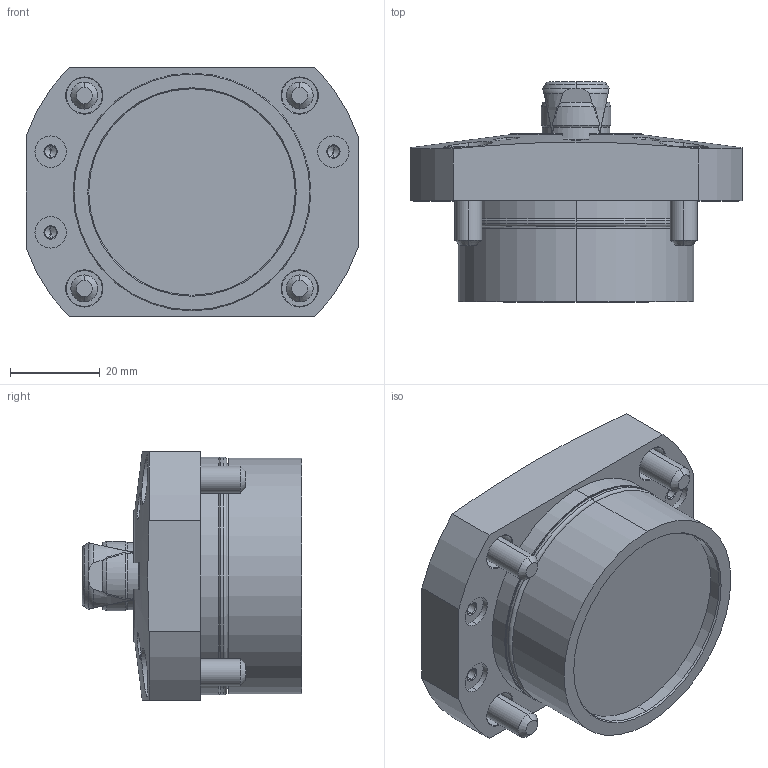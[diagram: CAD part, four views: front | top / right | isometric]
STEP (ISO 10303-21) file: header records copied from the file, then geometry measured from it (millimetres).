
FILE_DESCRIPTION (( 'STEP AP203' ), '1' );
FILE_NAME ('SFH3160_N.STEP', '2010-11-03T23:24:55', ( ' ' ), ( ' ' ), 'SwSTEP 2.0', 'SolidWorks 2010', '' );
FILE_SCHEMA (( 'CONFIG_CONTROL_DESIGN' ));
Length unit declared in the file: millimetre
Products named in the file (7): 冇16_郫霓; 6妏寠晅无倌_M3_10; 6妏寠晅无倌_M6_16; φ16_ｽﾘｰﾌﾞ-N; SFH3160-N_套菁轤礁诎蔬晅; SFH3160_N; SFH3_钾堇轤O剌皋晅
Assembly tree (14 placements, depth 2):
  SFH3160_N
    6妏寠晅无倌_M3_10  x6
    6妏寠晅无倌_M6_16  x4
    冇16_郫霓
    SFH3160-N_套菁轤礁诎蔬晅
    SFH3_钾堇轤O剌皋晅
    φ16_ｽﾘｰﾌﾞ-N
Bounding box: 74 x 49 x 55.5 mm (x, y, z)
Volume: 96506 mm3; surface area: 29986.4 mm2
Topology: 18 solids, 18 shells, 554 faces, 1119 edges, 612 vertices
Faces by surface type: plane 223, cone 180, cylinder 132, torus 19
Entity records: 10315 total; most frequent: CARTESIAN_POINT 2576, DIRECTION 1504, ORIENTED_EDGE 1350, EDGE_CURVE 675, AXIS2_PLACEMENT_3D 632, VERTEX_POINT 412, EDGE_LOOP 351, CIRCLE 309
